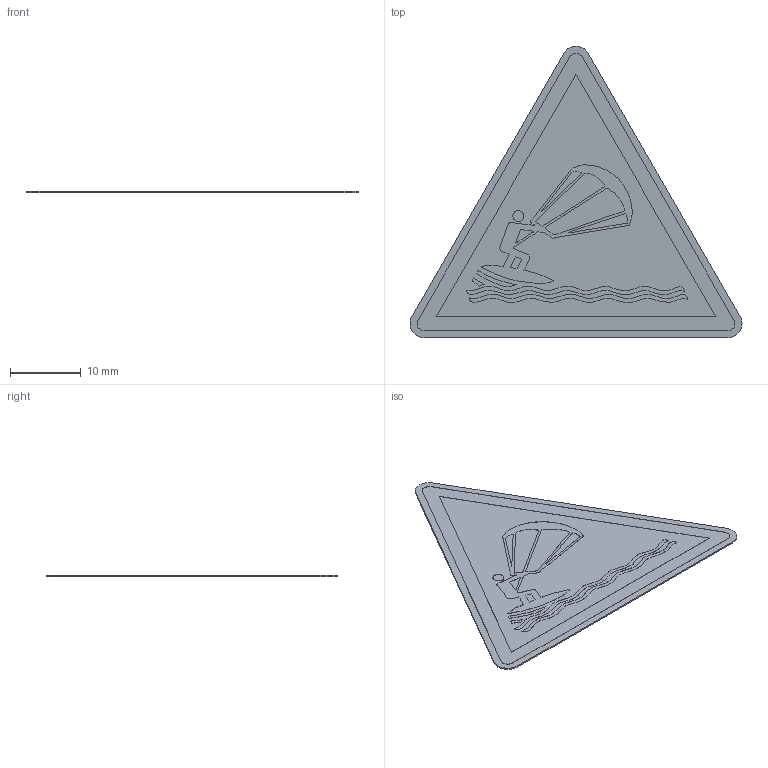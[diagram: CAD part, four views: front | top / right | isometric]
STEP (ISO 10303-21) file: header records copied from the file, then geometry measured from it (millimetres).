
FILE_DESCRIPTION (( 'STEP AP214' ), '1' );
FILE_NAME ('W062_Warnung vor Kitesurfern.STEP', '2022-03-05T05:28:37', ( '' ), ( '' ), 'SwSTEP 2.0', 'SolidWorks 2021', '' );
FILE_SCHEMA (( 'AUTOMOTIVE_DESIGN' ));
Length unit declared in the file: millimetre
Products named in the file (1): W062_Warnung vor Kitesurfern
Bounding box: 47.07 x 41.3 x 0.22 mm (x, y, z)
Volume: 222.1 mm3; surface area: 2188.6 mm2
Topology: 1 solids, 1 shells, 356 faces, 1020 edges, 680 vertices
Faces by surface type: plane 326, cylinder 30
Entity records: 15218 total; most frequent: CARTESIAN_POINT 2057, ORIENTED_EDGE 2040, DIRECTION 1794, EDGE_CURVE 1020, LINE 960, VECTOR 960, VERTEX_POINT 680, AXIS2_PLACEMENT_3D 417
